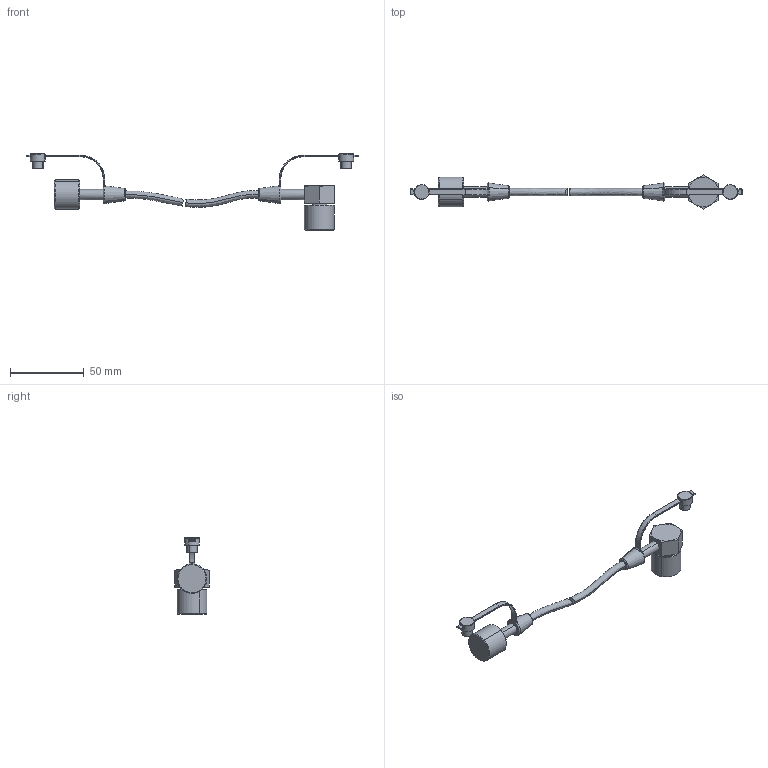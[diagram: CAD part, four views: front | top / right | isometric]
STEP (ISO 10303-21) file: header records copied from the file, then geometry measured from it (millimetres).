
FILE_DESCRIPTION(('CATIA V5 STEP Exchange'),'2;1');
FILE_NAME('W:\LIBRERIA TECAPRES®\FICHEROS CAD\LATIGUILLOS\MF1215-RC.stp','2016-02-03T12:43:19+00:00',('none'),('none'),'CATIA Version 5 Release 17 (IN-10)','CATIA V5 STEP AP203','none');
FILE_SCHEMA(('CONFIG_CONTROL_DESIGN'));
Length unit declared in the file: millimetre
Products named in the file (1): MF1215-RC
Bounding box: 224.37 x 23.09 x 51.6 mm (x, y, z)
Volume: 22006.8 mm3; surface area: 9863.2 mm2
Topology: 2 solids, 2 shells, 243 faces, 553 edges, 300 vertices
Faces by surface type: cylinder 62, bspline 60, plane 43, torus 42, cone 34, extrusion 2
Entity records: 12108 total; most frequent: CARTESIAN_POINT 7654, ORIENTED_EDGE 1050, DIRECTION 595, EDGE_CURVE 525, AXIS2_PLACEMENT_3D 302, VERTEX_POINT 300, EDGE_LOOP 257, B_SPLINE_CURVE_WITH_KNOTS 244
